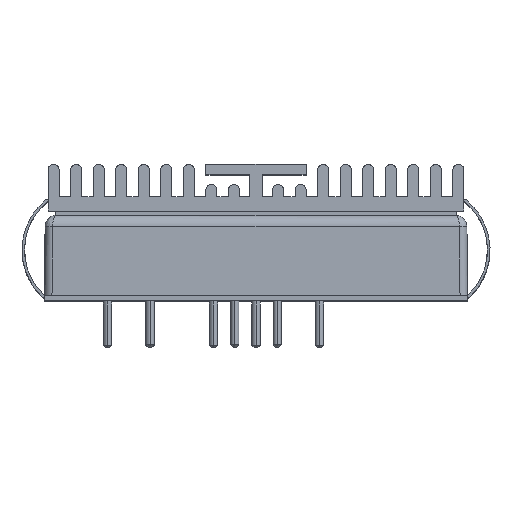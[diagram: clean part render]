
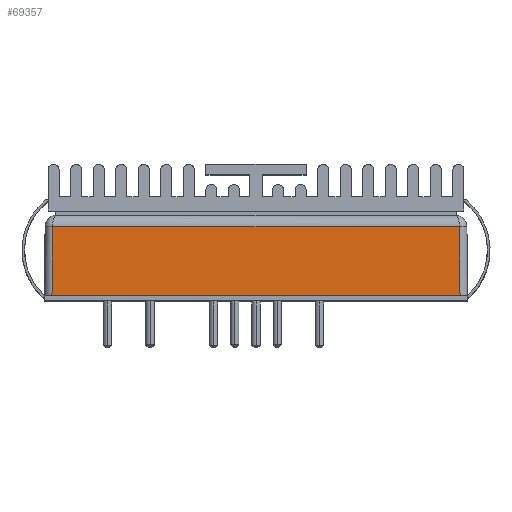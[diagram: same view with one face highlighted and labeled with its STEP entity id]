
A CAD part, top view. The second image highlights one B-rep face of the part: STEP entity #69357.
In plain terms, the highlighted planar face has unit normal (0, 0.009, 1).
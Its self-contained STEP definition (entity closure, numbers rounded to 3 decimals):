
#2889 = FACE_OUTER_BOUND ( 'NONE', #20317, .T. ) ;
#3081 = LINE ( 'NONE', #29202, #30070 ) ;
#4944 = CARTESIAN_POINT ( 'NONE',  ( -24.378, 8.812, 25.278 ) ) ;
#13451 = DIRECTION ( 'NONE',  ( -0.009, 1., -0.009 ) ) ;
#17141 = ORIENTED_EDGE ( 'NONE', *, *, #22614, .T. ) ;
#19071 = CARTESIAN_POINT ( 'NONE',  ( 25.35, 0.6, 25.35 ) ) ;
#20317 = EDGE_LOOP ( 'NONE', ( #47523, #50907, #36807, #17141 ) ) ;
#21588 = VECTOR ( 'NONE', #33099, 1000. ) ;
#22455 = CARTESIAN_POINT ( 'NONE',  ( 25.4, 0.6, 25.35 ) ) ;
#22614 = EDGE_CURVE ( 'NONE', #47967, #67602, #3081, .T. ) ;
#24270 = PLANE ( 'NONE',  #34876 ) ;
#24503 = DIRECTION ( 'NONE',  ( 0., -1., 0.009 ) ) ;
#27750 = CARTESIAN_POINT ( 'NONE',  ( 24.378, 8.812, 25.278 ) ) ;
#29202 = CARTESIAN_POINT ( 'NONE',  ( -24.378, 8.812, 25.278 ) ) ;
#29878 = VECTOR ( 'NONE', #13451, 1000. ) ;
#30070 = VECTOR ( 'NONE', #34703, 1000. ) ;
#31161 = CARTESIAN_POINT ( 'NONE',  ( 25.35, 8.812, 25.278 ) ) ;
#33099 = DIRECTION ( 'NONE',  ( -1., 0., 0. ) ) ;
#33381 = EDGE_CURVE ( 'NONE', #50039, #67602, #63035, .T. ) ;
#33443 = LINE ( 'NONE', #31161, #47904 ) ;
#34457 = CARTESIAN_POINT ( 'NONE',  ( 24.45, 0.6, 25.35 ) ) ;
#34703 = DIRECTION ( 'NONE',  ( -0.009, -1., 0.009 ) ) ;
#34876 = AXIS2_PLACEMENT_3D ( 'NONE', #19071, #56956, #24503 ) ;
#36807 = ORIENTED_EDGE ( 'NONE', *, *, #51737, .T. ) ;
#40578 = CARTESIAN_POINT ( 'NONE',  ( -24.45, 0.6, 25.35 ) ) ;
#44375 = LINE ( 'NONE', #34457, #29878 ) ;
#47523 = ORIENTED_EDGE ( 'NONE', *, *, #33381, .F. ) ;
#47904 = VECTOR ( 'NONE', #63589, 1000. ) ;
#47967 = VERTEX_POINT ( 'NONE', #4944 ) ;
#50039 = VERTEX_POINT ( 'NONE', #51764 ) ;
#50907 = ORIENTED_EDGE ( 'NONE', *, *, #69294, .T. ) ;
#51737 = EDGE_CURVE ( 'NONE', #69984, #47967, #33443, .T. ) ;
#51764 = CARTESIAN_POINT ( 'NONE',  ( 24.45, 0.6, 25.35 ) ) ;
#56956 = DIRECTION ( 'NONE',  ( 0., 0.009, 1. ) ) ;
#63035 = LINE ( 'NONE', #22455, #21588 ) ;
#63589 = DIRECTION ( 'NONE',  ( -1., 0., 0. ) ) ;
#67602 = VERTEX_POINT ( 'NONE', #40578 ) ;
#69294 = EDGE_CURVE ( 'NONE', #50039, #69984, #44375, .T. ) ;
#69357 = ADVANCED_FACE ( 'NONE', ( #2889 ), #24270, .T. ) ;
#69984 = VERTEX_POINT ( 'NONE', #27750 ) ;
